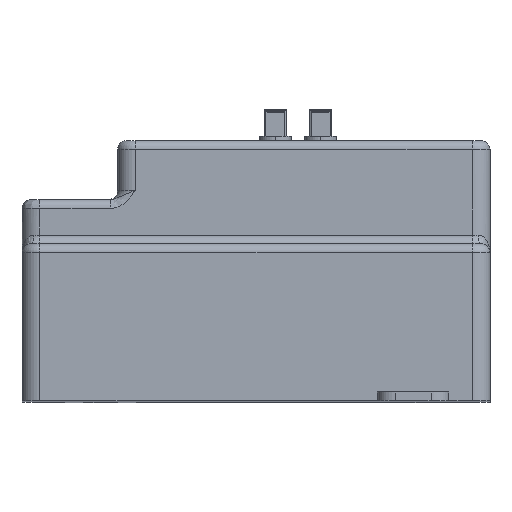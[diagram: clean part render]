
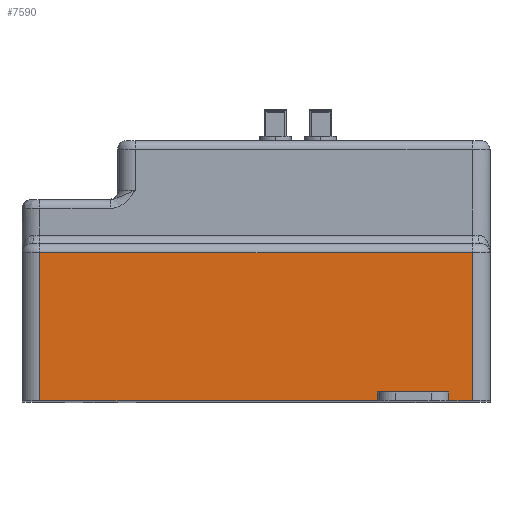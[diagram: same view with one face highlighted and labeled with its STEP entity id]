
A CAD part, top view. The second image highlights one B-rep face of the part: STEP entity #7590.
In plain terms, the highlighted planar face has unit normal (0, 0, 1).
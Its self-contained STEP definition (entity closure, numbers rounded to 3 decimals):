
#7590=ADVANCED_FACE('',(#14292),#10557,.F.);
#10557=PLANE('',#79402);
#14292=FACE_OUTER_BOUND('',#18532,.T.);
#18532=EDGE_LOOP('',(#38990,#38991,#38992,#38993,#38994,#38995,#38996,#38997,
#38998,#38999,#39000,#39001));
#38990=ORIENTED_EDGE('',*,*,#56942,.T.);
#38991=ORIENTED_EDGE('',*,*,#57090,.T.);
#38992=ORIENTED_EDGE('',*,*,#57091,.T.);
#38993=ORIENTED_EDGE('',*,*,#57092,.F.);
#38994=ORIENTED_EDGE('',*,*,#56936,.T.);
#38995=ORIENTED_EDGE('',*,*,#57093,.F.);
#38996=ORIENTED_EDGE('',*,*,#57094,.T.);
#38997=ORIENTED_EDGE('',*,*,#57095,.T.);
#38998=ORIENTED_EDGE('',*,*,#56956,.T.);
#38999=ORIENTED_EDGE('',*,*,#57096,.F.);
#39000=ORIENTED_EDGE('',*,*,#57097,.F.);
#39001=ORIENTED_EDGE('',*,*,#57089,.F.);
#46530=VERTEX_POINT('',#131079);
#46531=VERTEX_POINT('',#131080);
#46535=VERTEX_POINT('',#131089);
#46537=VERTEX_POINT('',#131092);
#46550=VERTEX_POINT('',#131118);
#46551=VERTEX_POINT('',#131120);
#46648=VERTEX_POINT('',#131602);
#46649=VERTEX_POINT('',#131606);
#46650=VERTEX_POINT('',#131608);
#46651=VERTEX_POINT('',#131611);
#46652=VERTEX_POINT('',#131613);
#46653=VERTEX_POINT('',#131616);
#56936=EDGE_CURVE('',#46530,#46531,#65436,.T.);
#56942=EDGE_CURVE('',#46537,#46535,#65438,.T.);
#56956=EDGE_CURVE('',#46551,#46550,#65446,.T.);
#57089=EDGE_CURVE('',#46537,#46648,#65528,.T.);
#57090=EDGE_CURVE('',#46535,#46649,#65529,.T.);
#57091=EDGE_CURVE('',#46649,#46650,#65530,.T.);
#57092=EDGE_CURVE('',#46530,#46650,#65531,.T.);
#57093=EDGE_CURVE('',#46651,#46531,#65532,.T.);
#57094=EDGE_CURVE('',#46651,#46652,#65533,.T.);
#57095=EDGE_CURVE('',#46652,#46551,#65534,.T.);
#57096=EDGE_CURVE('',#46653,#46550,#65535,.T.);
#57097=EDGE_CURVE('',#46648,#46653,#65536,.T.);
#65436=LINE('',#131078,#73837);
#65438=LINE('',#131091,#73839);
#65446=LINE('',#131119,#73847);
#65528=LINE('',#131603,#73929);
#65529=LINE('',#131605,#73930);
#65530=LINE('',#131607,#73931);
#65531=LINE('',#131609,#73932);
#65532=LINE('',#131610,#73933);
#65533=LINE('',#131612,#73934);
#65534=LINE('',#131614,#73935);
#65535=LINE('',#131615,#73936);
#65536=LINE('',#131617,#73937);
#73837=VECTOR('',#97476,1.);
#73839=VECTOR('',#97486,1.);
#73847=VECTOR('',#97506,1.);
#73929=VECTOR('',#97724,1.);
#73930=VECTOR('',#97727,1.);
#73931=VECTOR('',#97728,1.);
#73932=VECTOR('',#97729,1.);
#73933=VECTOR('',#97730,1.);
#73934=VECTOR('',#97731,1.);
#73935=VECTOR('',#97732,1.);
#73936=VECTOR('',#97733,1.);
#73937=VECTOR('',#97734,1.);
#79402=AXIS2_PLACEMENT_3D('',#131618,#97735,#97736);
#97476=DIRECTION('',(1.,0.,0.));
#97486=DIRECTION('',(1.,0.,0.));
#97506=DIRECTION('',(1.,0.,0.));
#97724=DIRECTION('',(0.,1.,0.));
#97727=DIRECTION('',(0.,1.,0.));
#97728=DIRECTION('',(1.,0.,0.));
#97729=DIRECTION('',(0.,1.,0.));
#97730=DIRECTION('',(0.,-1.,0.));
#97731=DIRECTION('',(1.,0.,0.));
#97732=DIRECTION('',(0.,-1.,0.));
#97733=DIRECTION('',(0.,-1.,0.));
#97734=DIRECTION('',(1.,0.,0.));
#97735=DIRECTION('',(0.,0.,-1.));
#97736=DIRECTION('',(1.,0.,0.));
#131078=CARTESIAN_POINT('',(83.785,150.642,457.238));
#131079=CARTESIAN_POINT('',(99.512,150.642,457.238));
#131080=CARTESIAN_POINT('',(103.259,150.642,457.238));
#131089=CARTESIAN_POINT('',(97.385,150.642,457.238));
#131091=CARTESIAN_POINT('',(83.785,150.642,457.238));
#131092=CARTESIAN_POINT('',(59.585,150.642,457.238));
#131118=CARTESIAN_POINT('',(107.985,150.642,457.238));
#131119=CARTESIAN_POINT('',(83.785,150.642,457.238));
#131120=CARTESIAN_POINT('',(105.385,150.642,457.238));
#131602=CARTESIAN_POINT('',(59.585,167.242,457.238));
#131603=CARTESIAN_POINT('',(59.585,150.642,457.238));
#131605=CARTESIAN_POINT('',(97.385,168.242,457.238));
#131606=CARTESIAN_POINT('',(97.385,151.642,457.238));
#131607=CARTESIAN_POINT('',(108.785,151.642,457.238));
#131608=CARTESIAN_POINT('',(99.512,151.642,457.238));
#131609=CARTESIAN_POINT('',(99.512,150.642,457.238));
#131610=CARTESIAN_POINT('',(103.259,150.642,457.238));
#131611=CARTESIAN_POINT('',(103.259,151.642,457.238));
#131612=CARTESIAN_POINT('',(108.785,151.642,457.238));
#131613=CARTESIAN_POINT('',(105.385,151.642,457.238));
#131614=CARTESIAN_POINT('',(105.385,168.242,457.238));
#131615=CARTESIAN_POINT('',(107.985,167.242,457.238));
#131616=CARTESIAN_POINT('',(107.985,167.242,457.238));
#131617=CARTESIAN_POINT('',(83.785,167.242,457.238));
#131618=CARTESIAN_POINT('',(108.785,168.242,457.238));
